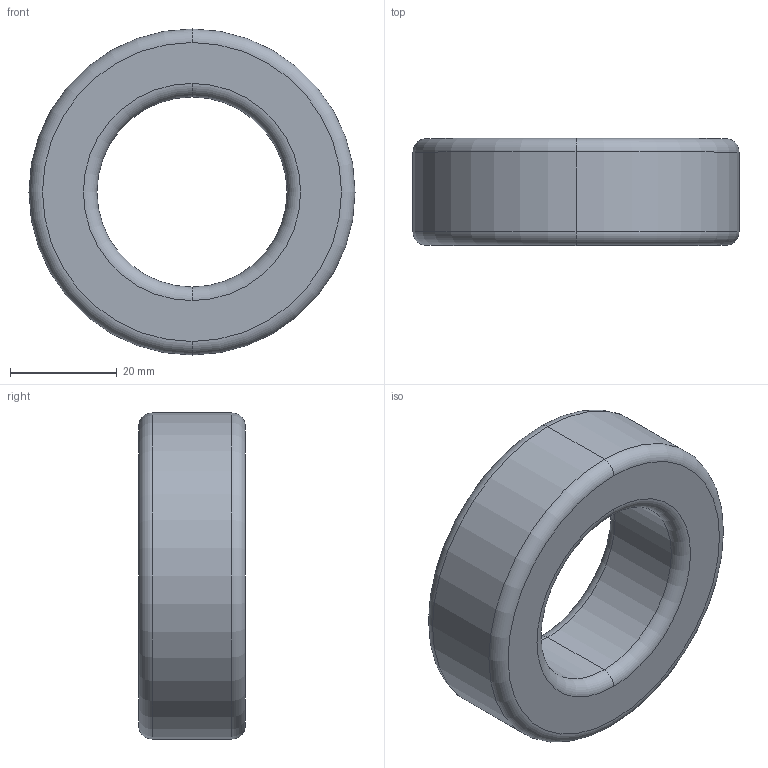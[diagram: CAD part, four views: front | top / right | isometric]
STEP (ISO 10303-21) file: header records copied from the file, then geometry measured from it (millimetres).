
FILE_DESCRIPTION (( 'STEP AP203' ), '1' );
FILE_NAME ('2675828302.STEP', '2024-05-01T16:47:36', ( '' ), ( '' ), 'SwSTEP 2.0', 'SolidWorks 2024', '' );
FILE_SCHEMA (( 'CONFIG_CONTROL_DESIGN' ));
Length unit declared in the file: inch
Products named in the file (1): 2675828302
Bounding box: 61.01 x 19.99 x 61.01 mm (x, y, z)
Volume: 37747.3 mm3; surface area: 9263.8 mm2
Topology: 1 solids, 1 shells, 14 faces, 28 edges, 16 vertices
Faces by surface type: torus 8, cylinder 4, plane 2
Entity records: 455 total; most frequent: DIRECTION 82, CARTESIAN_POINT 59, ORIENTED_EDGE 56, AXIS2_PLACEMENT_3D 39, EDGE_CURVE 28, CIRCLE 24, VERTEX_POINT 16, EDGE_LOOP 16
